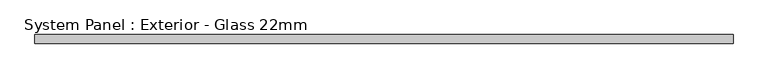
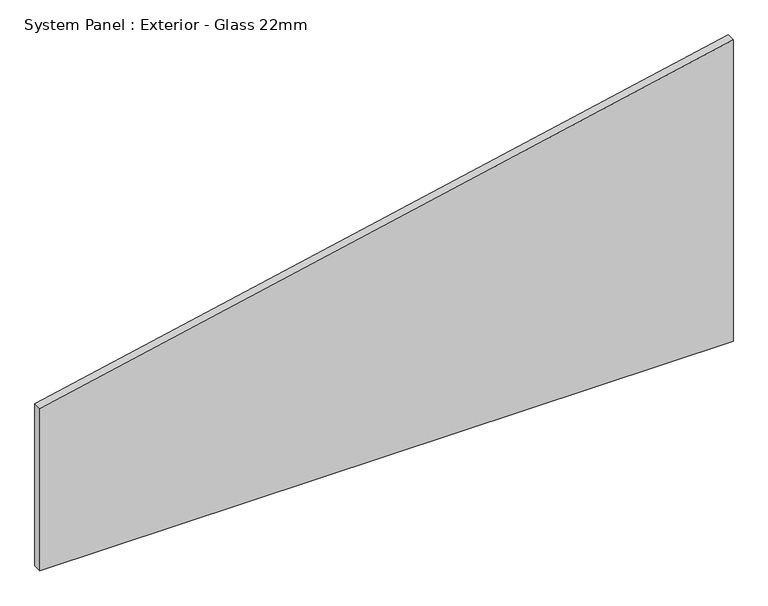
"""IFC4 building model written with IfcOpenShell, lengths in millimetres: plate geometry, System Panel : Exterior - Glass 22mm."""

from ifc_helpers import new_model, si_unit, frame, origin, place, context, project, spatial, polyline, outline, extrude, source, transform, mapped, element, save


def system_panel_exterior_glass_22mm_7fe7f60a(model_context):
    return source(origin(), model_context, "Body", "SweptSolid", [
        extrude(outline(polyline([(0.0, -892.5), (0.0, 892.5), (820.4528018, 892.5), (441.0393392, -892.5), (0.0, -892.5)])), frame((0.0, -50.0, 0.0), z_axis=(0.0, 1.0, 0.0), x_axis=(0.0, 0.0, 1.0)), (0.0, 0.0, 1.0), 22.0),
    ])


if __name__ == "__main__":
    model = new_model("IFC4")
    model_context = context("Model", 3, world=origin())
    ifc_project = project(units=[si_unit("LENGTHUNIT", "METRE", prefix="MILLI")], contexts=[model_context])
    site = spatial("IfcSite", under=ifc_project)
    building = spatial("IfcBuilding", under=site)
    placement = place(None, origin())
    system_panel_exterior_glass_22mm_shape = system_panel_exterior_glass_22mm_7fe7f60a(model_context)
    element("IfcPlate", 1, ObjectType="System Panel : Exterior - Glass 22mm", at=placement, inside=building, context=model_context, shape_type="MappedRepresentation", body=[
        mapped(system_panel_exterior_glass_22mm_shape, transform((0.0, 0.0, 0.0), x_axis=(1.0, 0.0, 0.0), y_axis=(0.0, 1.0, 0.0), z_axis=(0.0, 0.0, 1.0))),
    ])
    save(model, "model.ifc")
